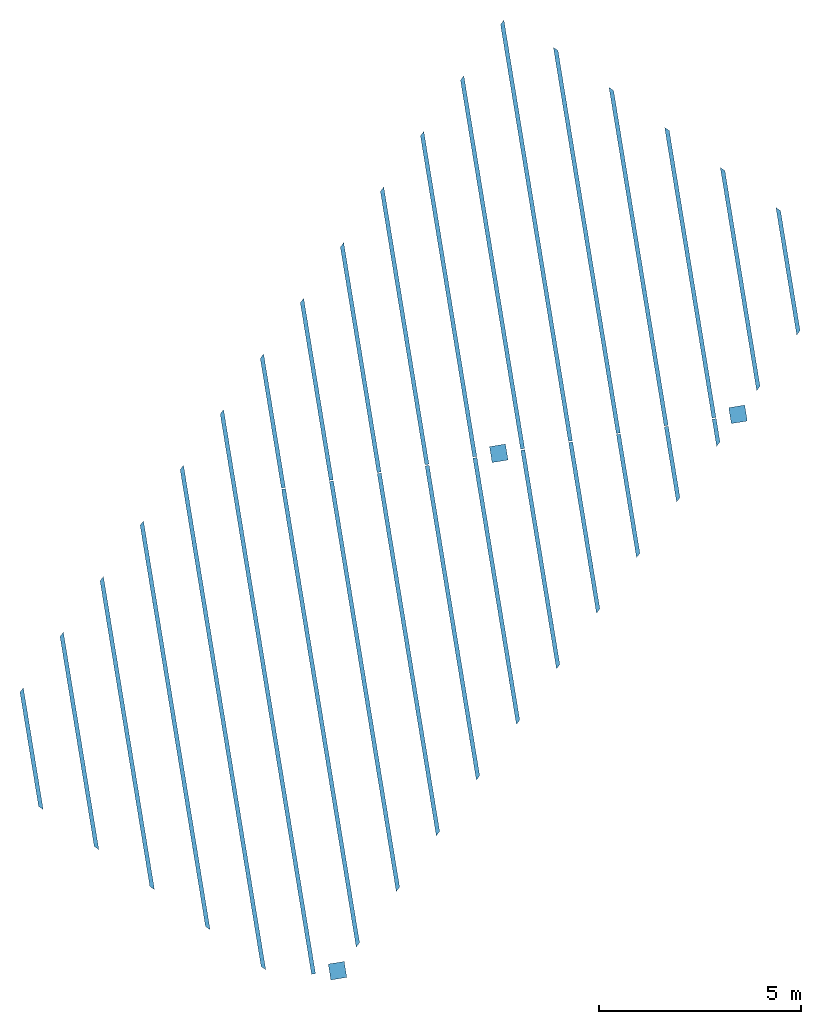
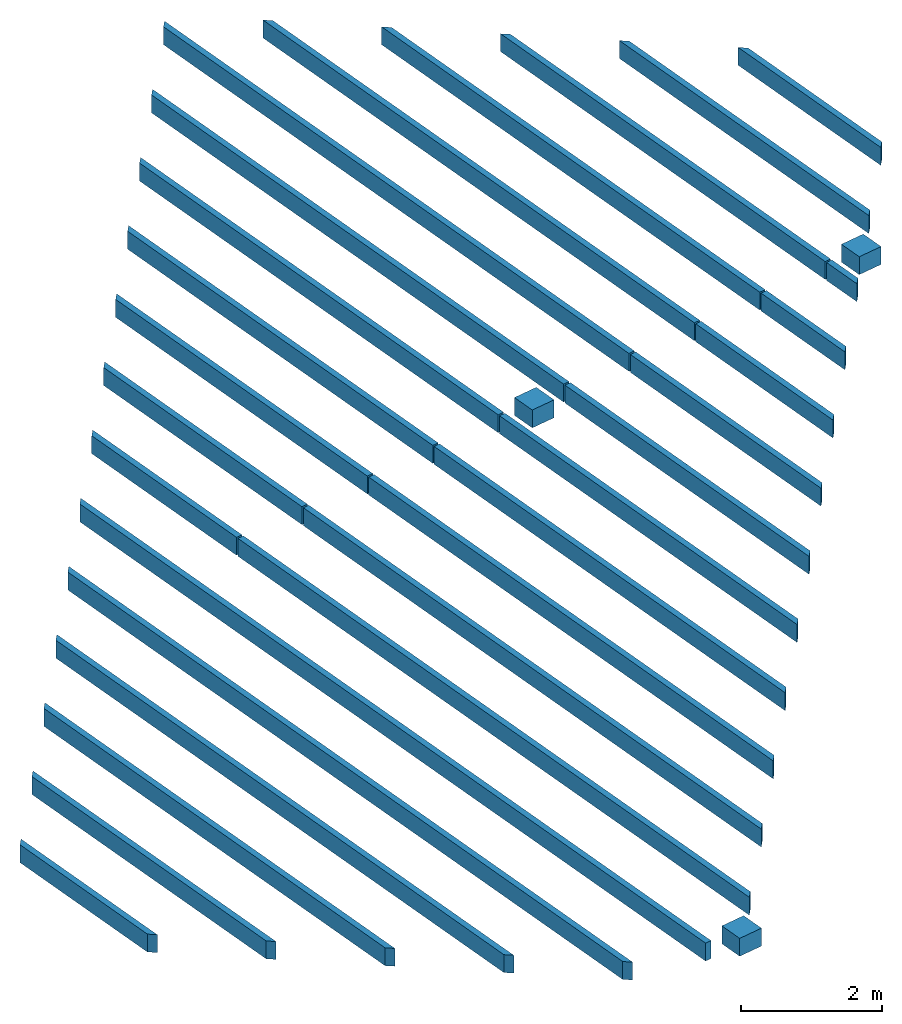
# One storey: 14 beams, 3 columns.
"""IFC2X3 building model written with IfcOpenShell, lengths in millimetres."""

from ifc_helpers import new_model, entity, si_unit, converted_unit, derived_unit, direction, frame, origin, origin_with_axes, place, context, subcontext, project, spatial, faceted_brep, type_object, element, save


model = new_model("IFC2X3")

# Units and contexts
model_context = context("Model", 3, precision=0.01, world=origin(), true_north=direction((6.12323399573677e-17, 1.0)))
plan_context = context("Plan", 3, precision=1e-05, world=origin_with_axes())
body_context = subcontext(model_context, "Body", "Model", "MODEL_VIEW")
ifc_project = project(units=[converted_unit("PLANEANGLEUNIT", "DEGREE", entity("IfcPositiveLengthMeasure", 0.0174532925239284), si_unit("PLANEANGLEUNIT", "RADIAN"), dimensions=[0, 0, 0, 0, 0, 0, 0]), si_unit("AREAUNIT", "SQUARE_METRE"), si_unit("LENGTHUNIT", "METRE", prefix="MILLI"), si_unit("MASSUNIT", "GRAM", prefix="KILO"), si_unit("POWERUNIT", "WATT"), si_unit("PRESSUREUNIT", "PASCAL", prefix="KILO"), si_unit("FORCEUNIT", "NEWTON", prefix="KILO"), si_unit("ELECTRICVOLTAGEUNIT", "VOLT"), si_unit("ELECTRICCURRENTUNIT", "AMPERE"), si_unit("THERMODYNAMICTEMPERATUREUNIT", "DEGREE_CELSIUS"), si_unit("TIMEUNIT", "SECOND"), si_unit("VOLUMEUNIT", "CUBIC_METRE"), derived_unit("LINEARVELOCITYUNIT", [(si_unit("LENGTHUNIT", "METRE"), 1), (si_unit("TIMEUNIT", "SECOND"), -1)]), derived_unit("VOLUMETRICFLOWRATEUNIT", [(si_unit("VOLUMEUNIT", "CUBIC_METRE"), 1), (si_unit("TIMEUNIT", "SECOND"), -1)]), derived_unit("THERMALTRANSMITTANCEUNIT", [(si_unit("POWERUNIT", "WATT"), 1), (si_unit("THERMODYNAMICTEMPERATUREUNIT", "KELVIN"), -1), (si_unit("AREAUNIT", "SQUARE_METRE"), -1)]), derived_unit("SOUNDPRESSUREUNIT", [(si_unit("PRESSUREUNIT", "PASCAL"), 1)])], contexts=[model_context, plan_context])

# Site, building, storey
site_placement = place(None, frame((5.09380697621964e-08, 5.80416781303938e-08, 0.0), z_axis=(0.0, 0.0, 1.0), x_axis=(-0.160806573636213, 0.986985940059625, 0.0)))
site = spatial("IfcSite", under=ifc_project, at=site_placement, Name="Default", CompositionType="ELEMENT")
building_placement = place(site_placement, frame((0.0, 0.0, 0.0), z_axis=(0.0, 0.0, 1.0), x_axis=(1.0, -2.77555756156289e-17, 0.0)))
building = spatial("IfcBuilding", under=site, at=building_placement, CompositionType="ELEMENT")
storey_placement = place(building_placement, frame((0.0, 0.0, 59000.0), z_axis=(0.0, 0.0, 1.0), x_axis=(1.0, -2.77555756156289e-17, 0.0)))
storey = spatial("IfcBuildingStorey", under=building, at=storey_placement, Name="H03-Nivå G-5m", CompositionType="ELEMENT", Elevation=59000.0)

# Columns
column_type = type_object("IfcColumnType", Name="400*400", PredefinedType="NOTDEFINED")
column_1_placement = place(storey_placement, frame((0.0, 0.0, 0.0), z_axis=(0.0, 0.0, 1.0), x_axis=(1.0, -2.77555756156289e-17, 0.0)))
element("IfcColumn", 1, at=column_1_placement, inside=storey, type_object=column_type, Name="PLASSTØPTSØYLE", ObjectType="400*400", context=body_context, shape_type="Brep", body=[
    faceted_brep([(992438.345385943, -342580.329445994, 400.000000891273), (992838.345385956, -342580.327375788, 400.0), (992838.345385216, -342580.327375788, 89.9999990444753), (992438.345385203, -342580.329445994, 90.0000000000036), (992838.34331501, -342180.327375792, 89.9999990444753), (992438.343314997, -342180.329445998, 90.0000000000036), (992838.34331575, -342180.327375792, 400.0), (992438.343315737, -342180.329445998, 400.000000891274), (992438.343315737, -342180.329445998, 400.0), (992438.345385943, -342580.329445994, 400.0)], [[[0, 1, 2, 3]], [[3, 2, 4, 5]], [[6, 7, 5, 4]], [[7, 0, 3, 5]], [[1, 6, 4, 2]], [[8, 6, 1, 9]]], orient=[[False], [False], [False], [False], [False], [False]]),
])
column_2_placement = place(storey_placement, frame((0.0, 0.0, 0.0), z_axis=(0.0, 0.0, 1.0), x_axis=(1.0, -2.77555756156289e-17, 0.0)))
element("IfcColumn", 2, at=column_2_placement, inside=storey, type_object=column_type, Name="PLASSTØPTSØYLE", ObjectType="400*400", context=body_context, shape_type="Brep", body=[
    faceted_brep([(1004438.3719015, -348580.276417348, 400.000000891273), (1004838.37190151, -348580.274347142, 400.0), (1004838.37190077, -348580.274347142, 89.9999990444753), (1004438.37190076, -348580.276417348, 90.0000000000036), (1004838.36983057, -348180.274347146, 89.9999990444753), (1004438.36983055, -348180.276417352, 90.0000000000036), (1004838.36983131, -348180.274347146, 400.0), (1004438.36983129, -348180.276417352, 400.000000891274), (1004438.36983129, -348180.276417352, 400.0), (1004438.3719015, -348580.276417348, 400.0)], [[[0, 1, 2, 3]], [[3, 2, 4, 5]], [[6, 7, 5, 4]], [[7, 0, 3, 5]], [[1, 6, 4, 2]], [[8, 6, 1, 9]]], orient=[[False], [False], [False], [False], [False], [False]]),
])
column_3_placement = place(storey_placement, frame((0.0, 0.0, 0.0), z_axis=(0.0, 0.0, 1.0), x_axis=(1.0, -2.77555756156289e-17, 0.0)))
element("IfcColumn", 3, at=column_3_placement, inside=storey, type_object=column_type, Name="PLASSTØPTSØYLE", ObjectType="400*400", context=body_context, shape_type="Brep", body=[
    faceted_brep([(1004438.39841628, -354580.276417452, 400.000000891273), (1004838.39841629, -354580.274347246, 400.0), (1004838.39841555, -354580.274347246, 89.9999990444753), (1004438.39841554, -354580.276417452, 90.0000000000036), (1004838.39634534, -354180.27434725, 89.9999990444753), (1004438.39634533, -354180.276417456, 90.0000000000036), (1004838.39634608, -354180.27434725, 400.0), (1004438.39634607, -354180.276417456, 400.000000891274), (1004438.39634607, -354180.276417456, 400.0), (1004438.39841628, -354580.276417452, 400.0)], [[[0, 1, 2, 3]], [[3, 2, 4, 5]], [[6, 7, 5, 4]], [[7, 0, 3, 5]], [[1, 6, 4, 2]], [[8, 6, 1, 9]]], orient=[[False], [False], [False], [False], [False], [False]]),
])

# Beams
beam_type = type_object("IfcBeamType", Name="DT450*2400-100-50-1200-0-200-0.3", PredefinedType="NOTDEFINED")
beam_1_placement = place(storey_placement, frame((1004653.37530632, -351980.275321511, 90.0), z_axis=(0.0, 0.0, 1.0), x_axis=(1.0, -2.77555756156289e-17, 0.0)))
element("IfcBeam", 4, at=beam_1_placement, inside=storey, type_object=beam_type, Name="DT", ObjectType="DT450*2400-100-50-1200-0-200-0.3", context=body_context, shape_type="Brep", body=[
    faceted_brep([(0.00952386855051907, 550.0, 310.0), (9589.05338590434, 550.061956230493, 310.0), (9589.05338590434, 550.049364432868, 0.0), (0.00952386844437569, 550.0, 0.0), (9689.04130884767, 650.049879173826, 0.0), (0.00900906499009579, 650.0, 0.0), (9689.05287110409, 650.061441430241, 310.0), (0.00900906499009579, 650.0, 310.0), (0.00334622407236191, 1750.0, 310.0), (10552.2674286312, 1750.05577862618, 310.0), (10552.2674286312, 1750.05432309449, 0.0), (0.00334622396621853, 1750.0, 0.0), (10452.2693989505, 1850.05380830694, 0.0), (0.00283142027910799, 1850.0, 0.0), (10452.2679434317, 1850.05526382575, 310.0), (0.00283142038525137, 1850.0, 310.0), (9689.04130884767, 650.049879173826, 310.0), (9589.0407940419, 550.049364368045, 0.0), (9589.04079404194, 550.049364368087, 310.0), (10452.2693989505, 1850.05380830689, 310.0), (10552.2688841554, 1750.05432310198, 0.0), (10552.2688841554, 1750.05432310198, 310.0)], [[[0, 1, 2, 3]], [[2, 4, 5, 3]], [[4, 6, 7, 5]], [[8, 9, 10, 11]], [[10, 12, 13, 11]], [[12, 14, 15, 13]], [[7, 0, 3, 5]], [[15, 8, 11, 13]], [[16, 4, 17, 18]], [[19, 12, 20, 21]], [[18, 0, 7, 16]], [[21, 8, 15, 19]]], orient=[[False], [False], [False], [False], [False], [False], [False], [False], [False], [False], [False], [False]]),
])
beam_2_placement = place(storey_placement, frame((1004653.36470041, -349580.27532147, 90.0), z_axis=(0.0, 0.0, 1.0), x_axis=(1.0, -2.77555756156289e-17, 0.0)))
element("IfcBeam", 5, at=beam_2_placement, inside=storey, type_object=beam_type, Name="DT", ObjectType="DT450*2400-100-50-1200-0-200-0.3", context=body_context, shape_type="Brep", body=[
    faceted_brep([(0.00952386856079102, 550.0, 310.0), (9352.28421209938, 550.049601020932, 310.0), (9352.28421209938, 550.048145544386, 0.0), (0.00952386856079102, 550.0, 0.0), (9252.28618236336, 650.04763075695, 0.0), (0.00900906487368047, 650.0, 0.0), (9252.28472689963, 650.049086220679, 310.0), (0.00900906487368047, 650.0, 310.0), (0.00334622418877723, 1750.0, 310.0), (8152.29038970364, 1750.04342341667, 310.0), (8152.29038970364, 1750.04196800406, 0.0), (0.00334622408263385, 1750.0, 0.0), (8052.29235990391, 1850.0414532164, 0.0), (0.00283142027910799, 1850.0, 0.0), (8052.29090450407, 1850.04290861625, 310.0), (0.00283142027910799, 1850.0, 310.0), (9252.28618236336, 650.04763075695, 310.0), (9352.28566756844, 550.048145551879, 0.0), (9352.28566756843, 550.048145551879, 310.0), (8052.29235990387, 1850.04145321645, 310.0), (8152.29184510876, 1750.04196801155, 0.0), (8152.29184510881, 1750.0419680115, 310.0)], [[[0, 1, 2, 3]], [[2, 4, 5, 3]], [[4, 6, 7, 5]], [[8, 9, 10, 11]], [[10, 12, 13, 11]], [[12, 14, 15, 13]], [[7, 0, 3, 5]], [[15, 8, 11, 13]], [[16, 4, 17, 18]], [[19, 12, 20, 21]], [[18, 0, 7, 16]], [[21, 8, 15, 19]]], orient=[[False], [False], [False], [False], [False], [False], [False], [False], [False], [False], [False], [False]]),
])
beam_3_placement = place(storey_placement, frame((1004653.3540945, -347180.275321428, 90.0), z_axis=(0.0, 0.0, 1.0), x_axis=(1.0, -2.77555756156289e-17, 0.0)))
element("IfcBeam", 6, at=beam_3_placement, inside=storey, type_object=beam_type, Name="DT", ObjectType="DT450*2400-100-50-1200-0-200-0.3", context=body_context, shape_type="Brep", body=[
    faceted_brep([(0.00952386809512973, 550.0, 310.0), (6952.30717317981, 550.037245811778, 310.0), (6952.30717317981, 550.035790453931, 0.0), (0.00952386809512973, 550.0, 0.0), (6852.30914332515, 650.035275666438, 0.0), (0.00900906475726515, 650.0, 0.0), (6852.30768798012, 650.036731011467, 310.0), (0.00900906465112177, 650.0, 310.0), (0.00334622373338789, 1750.0, 310.0), (5752.31335078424, 1750.03106820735, 310.0), (5752.31335078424, 1750.02961291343, 0.0), (0.00334622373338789, 1750.0, 0.0), (5652.31532086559, 1850.02909812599, 0.0), (0.00283142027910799, 1850.0, 0.0), (5652.31386558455, 1850.03055340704, 310.0), (0.00283142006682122, 1850.0, 310.0), (6852.30914332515, 650.035275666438, 310.0), (6952.30862853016, 550.035790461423, 0.0), (6952.30862853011, 550.035790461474, 310.0), (5652.31532086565, 1850.02909812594, 310.0), (5752.31480607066, 1750.02961292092, 0.0), (5752.31480607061, 1750.02961292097, 310.0)], [[[0, 1, 2, 3]], [[2, 4, 5, 3]], [[4, 6, 7, 5]], [[8, 9, 10, 11]], [[10, 12, 13, 11]], [[12, 14, 15, 13]], [[7, 0, 3, 5]], [[15, 8, 11, 13]], [[16, 4, 17, 18]], [[19, 12, 20, 21]], [[18, 0, 7, 16]], [[21, 8, 15, 19]]], orient=[[False], [False], [False], [False], [False], [False], [False], [False], [False], [False], [False], [False]]),
])
beam_4_placement = place(storey_placement, frame((1004653.34348859, -344780.275321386, 90.0), z_axis=(0.0, 0.0, 1.0), x_axis=(1.0, -2.77555756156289e-17, 0.0)))
element("IfcBeam", 7, at=beam_4_placement, inside=storey, type_object=beam_type, Name="DT", ObjectType="DT450*2400-100-50-1200-0-200-0.3", context=body_context, shape_type="Brep", body=[
    faceted_brep([(0.00952386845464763, 550.0, 310.0), (4552.33013426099, 550.024890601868, 310.0), (4552.33013426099, 550.023435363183, 0.0), (0.00952386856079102, 550.0, 0.0), (4452.332104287, 650.022920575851, 0.0), (0.00900906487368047, 650.0, 0.0), (4452.33064906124, 650.024375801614, 310.0), (0.00900906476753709, 650.0, 310.0), (0.00334622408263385, 1750.0, 310.0), (3352.33631186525, 1750.01871299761, 310.0), (3352.33631186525, 1750.01725782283, 0.0), (0.00334622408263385, 1750.0, 0.0), (3252.33828182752, 1850.01674303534, 0.0), (0.00283142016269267, 1850.0, 0.0), (3252.33682666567, 1850.01819819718, 310.0), (0.00283142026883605, 1850.0, 310.0), (4452.3321042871, 650.022920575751, 310.0), (4552.33158949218, 550.023435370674, 0.0), (4552.33158949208, 550.023435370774, 310.0), (3252.33828182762, 1850.01674303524, 310.0), (3352.33776703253, 1750.01725783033, 0.0), (3352.33776703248, 1750.01725783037, 310.0)], [[[0, 1, 2, 3]], [[2, 4, 5, 3]], [[4, 6, 7, 5]], [[8, 9, 10, 11]], [[10, 12, 13, 11]], [[12, 14, 15, 13]], [[7, 0, 3, 5]], [[15, 8, 11, 13]], [[16, 4, 17, 18]], [[19, 12, 20, 21]], [[18, 0, 7, 16]], [[21, 8, 15, 19]]], orient=[[False], [False], [False], [False], [False], [False], [False], [False], [False], [False], [False], [False]]),
])
beam_5_placement = place(storey_placement, frame((1004653.38591223, -354380.275321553, 90.0), z_axis=(0.0, 0.0, 1.0), x_axis=(1.0, -2.77555756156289e-17, 0.0)))
element("IfcBeam", 8, at=beam_5_placement, inside=storey, type_object=beam_type, Name="DT", ObjectType="DT450*2400-100-50-1200-0-200-0.3", context=body_context, shape_type="Brep", body=[
    faceted_brep([(0.00952386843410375, 550.0, 310.0), (7189.05513515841, 550.074311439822, 310.0), (7189.05513515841, 550.03700923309, 0.0), (0.00952386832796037, 550.0, 0.0), (7289.01834756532, 650.037523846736, 0.0), (0.00900906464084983, 650.0, 0.0), (7289.05462035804, 650.073796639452, 310.0), (0.00900906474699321, 650.0, 310.0), (0.00334622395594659, 1750.0, 310.0), (8389.04895755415, 1750.06813383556, 310.0), (8389.04895755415, 1750.04318683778, 0.0), (0.00334622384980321, 1750.0, 0.0), (8489.02452523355, 1850.04370151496, 0.0), (0.00283142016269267, 1850.0, 0.0), (8489.04844275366, 1850.06761903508, 310.0), (0.00283142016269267, 1850.0, 310.0), (7289.01834756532, 650.037523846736, 310.0), (7189.01783275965, 550.037009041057, 0.0), (7189.01783275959, 550.037009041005, 310.0), (8489.02452523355, 1850.04370151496, 310.0), (8389.02401042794, 1750.04318670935, 0.0), (8389.0240104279, 1750.04318670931, 310.0)], [[[0, 1, 2, 3]], [[2, 4, 5, 3]], [[4, 6, 7, 5]], [[8, 9, 10, 11]], [[10, 12, 13, 11]], [[12, 14, 15, 13]], [[7, 0, 3, 5]], [[15, 8, 11, 13]], [[16, 4, 17, 18]], [[19, 12, 20, 21]], [[18, 0, 7, 16]], [[21, 8, 15, 19]]], orient=[[False], [False], [False], [False], [False], [False], [False], [False], [False], [False], [False], [False]]),
])
beam_6_placement = place(storey_placement, frame((0.0, 0.0, 0.0), z_axis=(0.0, 0.0, 1.0), x_axis=(1.0, -2.77555756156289e-17, 0.0)))
element("IfcBeam", 9, at=beam_6_placement, inside=storey, type_object=beam_type, Name="DT", ObjectType="DT450*2400-100-50-1200-0-200-0.3", context=body_context, shape_type="Brep", body=[
    faceted_brep([(1006439.48393671, -356230.266126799, 89.9999999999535), (1006439.48393671, -356230.275321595, 400.0), (1009442.36673591, -356230.275321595, 400.0), (1009442.36673591, -356230.250667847, 89.9999999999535), (1009542.39190459, -356130.250152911, 89.9999999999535), (1006339.47525676, -356130.266641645, 89.9999999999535), (1009542.36673591, -356130.275321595, 400.0), (1006339.48393671, -356130.275321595, 400.0), (1005239.48393671, -355030.272304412, 89.9999999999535), (1005239.48393671, -355030.275321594, 400.0), (1010642.36673591, -355030.275321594, 400.0), (1010642.36673591, -355030.24449017, 89.9999999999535), (1010742.3980823, -354930.243975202, 89.9999999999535), (1005139.48143434, -354930.272819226, 89.9999999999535), (1010742.36673591, -354930.275321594, 400.0), (1005139.48393671, -354930.275321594, 400.0), (1009542.39190459, -356130.250152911, 400.0), (1009442.39138978, -356230.25066772, 89.9999999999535), (1009442.39138978, -356230.25066772, 399.999999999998), (1010742.3980823, -354930.243975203, 400.0), (1010642.39756749, -355030.244490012, 89.9999999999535), (1010642.39756749, -355030.244490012, 400.000000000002), (1005239.48091954, -355030.272304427, 400.000000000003), (1005239.48091954, -355030.272304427, 89.9999999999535), (1005139.48143434, -354930.272819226, 400.0), (1006439.47474196, -356230.266126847, 400.000000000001), (1006439.47474196, -356230.266126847, 89.9999999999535), (1006339.47525676, -356130.266641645, 400.0)], [[[0, 1, 2, 3]], [[3, 4, 5, 0]], [[4, 6, 7, 5]], [[8, 9, 10, 11]], [[11, 12, 13, 8]], [[12, 14, 15, 13]], [[16, 4, 17, 18]], [[19, 12, 20, 21]], [[22, 23, 13, 24]], [[25, 26, 5, 27]], [[18, 25, 27, 16]], [[21, 22, 24, 19]]], orient=[[False], [False], [False], [False], [False], [False], [False], [False], [False], [False], [False], [False]]),
])
beam_7_placement = place(storey_placement, frame((992653.311670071, -337580.328350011, 90.0), z_axis=(0.0, 0.0, 1.0), x_axis=(1.0, -2.77555756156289e-17, 0.0)))
element("IfcBeam", 10, at=beam_7_placement, inside=storey, type_object=beam_type, Name="DT", ObjectType="DT450*2400-100-50-1200-0-200-0.3", context=body_context, shape_type="Brep", body=[
    faceted_brep([(3892.54548761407, 550.020038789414, 0.0), (3892.54548761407, 550.049601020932, 310.0), (9352.39027098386, 550.049601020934, 310.0), (9352.39027098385, 550.048146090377, 0.0), (3992.51644003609, 650.020553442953, 0.0), (9252.39224070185, 650.047631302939, 0.0), (9252.39078578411, 650.04908622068, 310.0), (3992.54497281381, 650.049086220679, 310.0), (5092.53931000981, 1750.02621639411, 0.0), (5092.53931000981, 1750.04342341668, 310.0), (8152.39644858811, 1750.04342341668, 310.0), (8152.39644858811, 1750.04196855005, 0.0), (5192.52261770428, 1850.02673111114, 0.0), (8052.3984182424, 1850.04145376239, 0.0), (8052.39696338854, 1850.04290861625, 310.0), (5192.53879520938, 1850.04290861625, 310.0), (9252.39224070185, 650.047631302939, 310.0), (9352.39172590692, 550.048146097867, 0.0), (9352.39172590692, 550.048146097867, 310.0), (8052.39841824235, 1850.04145376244, 310.0), (8152.39790344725, 1750.04196855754, 0.0), (8152.3979034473, 1750.04196855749, 310.0), (5092.52210289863, 1750.02621630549, 310.0), (5092.52210289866, 1750.02621630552, 0.0), (5192.52261770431, 1850.02673111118, 310.0), (3892.51592523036, 550.020038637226, 310.0), (3892.51592523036, 550.020038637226, 0.0), (3992.51644003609, 650.020553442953, 310.0)], [[[0, 1, 2, 3]], [[4, 0, 3, 5]], [[5, 6, 7, 4]], [[8, 9, 10, 11]], [[12, 8, 11, 13]], [[13, 14, 15, 12]], [[16, 5, 17, 18]], [[19, 13, 20, 21]], [[22, 23, 12, 24]], [[25, 26, 4, 27]], [[18, 25, 27, 16]], [[21, 22, 24, 19]]], orient=[[False], [False], [False], [False], [False], [False], [False], [False], [False], [False], [False], [False]]),
])
beam_8_placement = place(storey_placement, frame((992653.322275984, -339980.328350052, 90.0), z_axis=(0.0, 0.0, 1.0), x_axis=(1.0, -2.77555756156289e-17, 0.0)))
element("IfcBeam", 11, at=beam_8_placement, inside=storey, type_object=beam_type, Name="DT", ObjectType="DT450*2400-100-50-1200-0-200-0.3", context=body_context, shape_type="Brep", body=[
    faceted_brep([(1492.54723686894, 550.007683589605, 0.0), (1492.54723686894, 550.061956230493, 310.0), (11752.367309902, 550.061956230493, 310.0), (11752.367309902, 550.060501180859, 0.0), (1592.49347875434, 650.008198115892, 0.0), (11652.3692797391, 650.059986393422, 0.0), (11652.3678247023, 650.061441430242, 310.0), (1592.54672206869, 650.061441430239, 310.0), (2692.54105926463, 1750.0138611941, 0.0), (2692.54105926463, 1750.05577862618, 310.0), (10552.3734875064, 1750.05577862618, 310.0), (10552.3734875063, 1750.05432364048, 0.0), (2792.49965642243, 1850.01437578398, 0.0), (10452.3754572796, 1850.05380885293, 0.0), (10452.3740023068, 1850.05526382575, 310.0), (2792.5405444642, 1850.05526382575, 310.0), (11652.3692797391, 650.059986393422, 310.0), (11752.3687649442, 550.06050118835, 0.0), (11752.3687649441, 550.060501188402, 310.0), (10452.3754572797, 1850.05380885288, 310.0), (10552.3749424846, 1750.05432364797, 0.0), (10552.3749424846, 1750.05432364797, 310.0), (2692.49914161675, 1750.0138609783, 310.0), (2692.49914161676, 1750.0138609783, 0.0), (2792.49965642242, 1850.01437578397, 310.0), (1492.49296394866, 550.007683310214, 310.0), (1492.49296394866, 550.007683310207, 0.0), (1592.49347875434, 650.008198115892, 310.0)], [[[0, 1, 2, 3]], [[4, 0, 3, 5]], [[5, 6, 7, 4]], [[8, 9, 10, 11]], [[12, 8, 11, 13]], [[13, 14, 15, 12]], [[16, 5, 17, 18]], [[19, 13, 20, 21]], [[22, 23, 12, 24]], [[25, 26, 4, 27]], [[18, 25, 27, 16]], [[21, 22, 24, 19]]], orient=[[False], [False], [False], [False], [False], [False], [False], [False], [False], [False], [False], [False]]),
])
beam_9_placement = place(storey_placement, frame((992653.332881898, -342380.328350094, 90.0), z_axis=(0.0, 0.0, 1.0), x_axis=(1.0, -2.77555756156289e-17, 0.0)))
element("IfcBeam", 12, at=beam_9_placement, inside=storey, type_object=beam_type, Name="DT", ObjectType="DT450*2400-100-50-1200-0-200-0.3", context=body_context, shape_type="Brep", body=[
    faceted_brep([(0.00952386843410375, 550.0, 310.0), (14152.3443488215, 550.074311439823, 310.0), (14152.3443488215, 550.072856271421, 0.0), (0.00952386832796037, 550.0, 0.0), (14052.3463187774, 650.072341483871, 0.0), (0.00900906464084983, 650.0, 0.0), (14052.3448636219, 650.073796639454, 310.0), (0.00900906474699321, 650.0, 310.0), (292.542808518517, 1750.00150599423, 0.0), (292.54280851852, 1750.06813383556, 310.0), (12952.3505264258, 1750.06813383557, 310.0), (12952.3505264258, 1750.0666787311, 0.0), (392.47669513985, 1850.0020204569, 0.0), (12852.3524963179, 1850.06616394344, 0.0), (12852.3510412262, 1850.06761903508, 310.0), (392.542293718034, 1850.06761903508, 310.0), (14052.3463187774, 650.072341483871, 310.0), (14152.3458039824, 550.072856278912, 0.0), (14152.3458039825, 550.072856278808, 310.0), (12852.3524963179, 1850.06616394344, 310.0), (12952.3519815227, 1750.06667873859, 0.0), (12952.3519815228, 1750.06667873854, 310.0), (292.47618033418, 1750.00150565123, 310.0), (292.476180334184, 1750.00150565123, 0.0), (392.476695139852, 1850.0020204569, 310.0)], [[[0, 1, 2, 3]], [[2, 4, 5, 3]], [[4, 6, 7, 5]], [[8, 9, 10, 11]], [[12, 8, 11, 13]], [[13, 14, 15, 12]], [[7, 0, 3, 5]], [[16, 4, 17, 18]], [[19, 13, 20, 21]], [[22, 23, 12, 24]], [[18, 0, 7, 16]], [[21, 22, 24, 19]]], orient=[[False], [False], [False], [False], [False], [False], [False], [False], [False], [False], [False], [False]]),
])
beam_10_placement = place(storey_placement, frame((0.0, 0.0, 0.0), z_axis=(0.0, 0.0, 1.0), x_axis=(1.0, -2.77555756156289e-17, 0.0)))
element("IfcBeam", 13, at=beam_10_placement, inside=storey, type_object=beam_type, Name="DT", ObjectType="DT450*2400-100-50-1200-0-200-0.3", context=body_context, shape_type="Brep", body=[
    faceted_brep([(994439.53696525, -344230.319154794, 89.9999999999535), (994439.53696525, -344230.328350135, 400.0), (1004623.35174394, -344230.266728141, 400.0), (1004623.35174394, -344230.266728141, 89.9999999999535), (994339.528212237, -344130.31966964, 89.9999999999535), (1004623.35122914, -344130.266728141, 89.9999999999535), (1004623.35122914, -344130.266728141, 400.0), (994339.53696525, -344130.328350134, 400.0), (993239.53696525, -343030.325332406, 89.9999999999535), (993239.53696525, -343030.328350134, 400.0), (1004623.3455663, -343030.266728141, 400.0), (1004623.3455663, -343030.266728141, 89.9999999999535), (993139.534441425, -342930.32584722, 89.9999999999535), (1004623.3450515, -342930.266728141, 89.9999999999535), (1004623.3450515, -342930.266728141, 400.0), (993139.53696525, -342930.328350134, 400.0), (993239.533947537, -343030.325332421, 399.999999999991), (993239.533947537, -343030.325332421, 89.9999999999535), (993139.534462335, -342930.32584722, 89.9999999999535), (993139.534462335, -342930.32584722, 400.0), (994439.527769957, -344230.319154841, 399.999999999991), (994439.527769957, -344230.319154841, 89.9999999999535), (994339.528284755, -344130.31966964, 89.9999999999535), (994339.528284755, -344130.31966964, 400.0)], [[[0, 1, 2, 3]], [[4, 0, 3, 5]], [[6, 7, 4, 5]], [[8, 9, 10, 11]], [[12, 8, 11, 13]], [[14, 15, 12, 13]], [[10, 14, 13, 11]], [[2, 6, 5, 3]], [[16, 17, 18, 19]], [[20, 21, 22, 23]], [[23, 6, 2, 20]], [[19, 14, 10, 16]]], orient=[[False], [False], [False], [False], [False], [False], [False], [False], [False], [False], [False], [False]]),
])
beam_11_placement = place(storey_placement, frame((0.0, 0.0, 0.0), z_axis=(0.0, 0.0, 1.0), x_axis=(1.0, -2.77555756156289e-17, 0.0)))
element("IfcBeam", 14, at=beam_11_placement, inside=storey, type_object=beam_type, Name="DT", ObjectType="DT450*2400-100-50-1200-0-200-0.3", context=body_context, shape_type="Brep", body=[
    faceted_brep([(996839.536965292, -346630.306799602, 89.9999999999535), (996839.536965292, -346630.328350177, 400.0), (1004623.36234986, -346630.266728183, 400.0), (1004623.36234986, -346630.266728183, 89.9999999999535), (996739.515753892, -346530.307314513, 89.9999999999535), (1004623.36183505, -346530.266728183, 89.9999999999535), (1004623.36183505, -346530.266728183, 400.0), (996739.536965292, -346530.328350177, 400.0), (995639.536965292, -345430.312977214, 89.9999999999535), (995639.536965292, -345430.328350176, 400.0), (1004623.35617221, -345430.266728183, 400.0), (1004623.35617221, -345430.266728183, 89.9999999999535), (995539.52198308, -345330.313492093, 89.9999999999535), (1004623.35565741, -345330.266728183, 89.9999999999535), (1004623.35565741, -345330.266728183, 400.0), (995539.536965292, -345330.328350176, 400.0), (995639.521592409, -345430.312977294, 399.999999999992), (995639.521592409, -345430.312977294, 89.9999999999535), (995539.522107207, -345330.313492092, 89.9999999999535), (995539.522107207, -345330.313492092, 400.0), (996839.515414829, -346630.306799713, 399.999999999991), (996839.515414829, -346630.306799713, 89.9999999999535), (996739.515929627, -346530.307314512, 89.9999999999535), (996739.515929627, -346530.307314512, 400.0)], [[[0, 1, 2, 3]], [[4, 0, 3, 5]], [[6, 7, 4, 5]], [[8, 9, 10, 11]], [[12, 8, 11, 13]], [[14, 15, 12, 13]], [[10, 14, 13, 11]], [[2, 6, 5, 3]], [[16, 17, 18, 19]], [[20, 21, 22, 23]], [[23, 6, 2, 20]], [[19, 14, 10, 16]]], orient=[[False], [False], [False], [False], [False], [False], [False], [False], [False], [False], [False], [False]]),
])
beam_12_placement = place(storey_placement, frame((0.0, 0.0, 0.0), z_axis=(0.0, 0.0, 1.0), x_axis=(1.0, -2.77555756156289e-17, 0.0)))
element("IfcBeam", 15, at=beam_12_placement, inside=storey, type_object=beam_type, Name="DT", ObjectType="DT450*2400-100-50-1200-0-200-0.3", context=body_context, shape_type="Brep", body=[
    faceted_brep([(999239.536965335, -349030.294444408, 89.9999999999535), (999239.536965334, -349030.328350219, 400.0), (1004623.37295577, -349030.266728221, 400.0), (1004623.37295577, -349030.266728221, 89.9999999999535), (999139.503295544, -348930.294959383, 89.9999999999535), (1004623.37244097, -348930.266728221, 89.9999999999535), (1004623.37244097, -348930.266728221, 400.0), (999139.536965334, -348930.328350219, 400.0), (998039.536965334, -347830.300622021, 89.9999999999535), (998039.536965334, -347830.328350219, 400.0), (1004623.36677813, -347830.26672822, 400.0), (1004623.36677813, -347830.26672822, 89.9999999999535), (997939.509524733, -347730.301136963, 89.9999999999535), (1004623.36626332, -347730.26672822, 89.9999999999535), (1004623.36626332, -347730.26672822, 400.0), (997939.536965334, -347730.328350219, 400.0), (998039.509237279, -347830.300622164, 400.00000000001), (998039.509237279, -347830.300622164, 89.9999999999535), (997939.509752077, -347730.301136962, 89.9999999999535), (997939.509752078, -347730.301136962, 400.0), (999239.503059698, -349030.294444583, 399.999999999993), (999239.503059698, -349030.294444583, 89.9999999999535), (999139.503574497, -348930.294959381, 89.9999999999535), (999139.503574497, -348930.294959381, 400.0)], [[[0, 1, 2, 3]], [[4, 0, 3, 5]], [[6, 7, 4, 5]], [[8, 9, 10, 11]], [[12, 8, 11, 13]], [[14, 15, 12, 13]], [[10, 14, 13, 11]], [[2, 6, 5, 3]], [[16, 17, 18, 19]], [[20, 21, 22, 23]], [[23, 6, 2, 20]], [[19, 14, 10, 16]]], orient=[[False], [False], [False], [False], [False], [False], [False], [False], [False], [False], [False], [False]]),
])
beam_13_placement = place(storey_placement, frame((0.0, 0.0, 0.0), z_axis=(0.0, 0.0, 1.0), x_axis=(1.0, -2.77555756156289e-17, 0.0)))
element("IfcBeam", 16, at=beam_13_placement, inside=storey, type_object=beam_type, Name="DT", ObjectType="DT450*2400-100-50-1200-0-200-0.3", context=body_context, shape_type="Brep", body=[
    faceted_brep([(1001639.53696538, -351430.28208922, 89.9999999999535), (1001639.53696538, -351430.328350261, 400.0), (1004623.38356168, -351430.266728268, 400.0), (1004623.38356168, -351430.266728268, 89.9999999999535), (1001539.4908372, -351330.282604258, 89.9999999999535), (1004623.38304688, -351330.266728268, 89.9999999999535), (1004623.38304688, -351330.266728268, 400.0), (1001539.53696538, -351330.328350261, 400.0), (1000439.53696538, -350230.288266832, 89.9999999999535), (1000439.53696538, -350230.328350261, 400.0), (1004623.37738404, -350230.266728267, 400.0), (1004623.37738404, -350230.266728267, 89.9999999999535), (1000339.49706639, -350130.288781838, 89.9999999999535), (1004623.37686924, -350130.266728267, 89.9999999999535), (1004623.37686924, -350130.266728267, 400.0), (1000339.53696538, -350130.328350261, 400.0), (1000439.49688215, -350230.288267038, 400.000000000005), (1000439.49688215, -350230.288267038, 89.9999999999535), (1000339.49739695, -350130.288781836, 89.9999999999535), (1000339.49739695, -350130.288781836, 400.0), (1001639.49070457, -351430.282089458, 399.999999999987), (1001639.49070457, -351430.282089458, 89.9999999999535), (1001539.49121937, -351330.282604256, 89.9999999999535), (1001539.49121937, -351330.282604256, 400.0)], [[[0, 1, 2, 3]], [[4, 0, 3, 5]], [[6, 7, 4, 5]], [[8, 9, 10, 11]], [[12, 8, 11, 13]], [[14, 15, 12, 13]], [[10, 14, 13, 11]], [[2, 6, 5, 3]], [[16, 17, 18, 19]], [[20, 21, 22, 23]], [[23, 6, 2, 20]], [[19, 14, 10, 16]]], orient=[[False], [False], [False], [False], [False], [False], [False], [False], [False], [False], [False], [False]]),
])
beam_14_placement = place(storey_placement, frame((0.0, 0.0, 0.0), z_axis=(0.0, 0.0, 1.0), x_axis=(1.0, -2.77555756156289e-17, 0.0)))
element("IfcBeam", 17, at=beam_14_placement, inside=storey, type_object=beam_type, Name="DT", ObjectType="DT450*2400-100-50-1200-0-200-0.3", context=body_context, shape_type="Brep", body=[
    faceted_brep([(1004039.52326632, -353830.271993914, 89.9999999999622), (1004039.52326632, -353830.314651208, 400.0), (1004623.39449611, -353830.268988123, 400.0), (1004623.39449611, -353830.268988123, 89.9999999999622), (1003939.48064894, -353730.272508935, 89.9999999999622), (1004623.39398131, -353730.268988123, 89.9999999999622), (1004623.39398131, -353730.268988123, 400.0), (1003939.52326632, -353730.314651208, 400.0), (1002839.52326632, -352630.278171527, 89.9999999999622), (1002839.52326632, -352630.314651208, 400.0), (1004623.38831846, -352630.268988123, 400.0), (1004623.38831846, -352630.268988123, 89.9999999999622), (1002739.48689617, -352530.278686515, 89.9999999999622), (1004623.38780366, -352530.268988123, 89.9999999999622), (1004623.38780366, -352530.268988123, 400.0), (1002739.52326632, -352530.314651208, 400.0), (1002839.48678683, -352630.278171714, 400.000000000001), (1002839.48678683, -352630.278171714, 89.9999999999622), (1002739.48730163, -352530.278686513, 89.9999999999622), (1002739.48730163, -352530.278686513, 400.000000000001), (1004039.48060925, -353830.271994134, 399.999999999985), (1004039.48060925, -353830.271994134, 89.9999999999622), (1003939.48112405, -353730.272508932, 89.9999999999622), (1003939.48112405, -353730.272508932, 400.000000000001)], [[[0, 1, 2, 3]], [[4, 0, 3, 5]], [[6, 7, 4, 5]], [[8, 9, 10, 11]], [[12, 8, 11, 13]], [[14, 15, 12, 13]], [[10, 14, 13, 11]], [[2, 6, 5, 3]], [[16, 17, 18, 19]], [[20, 21, 22, 23]], [[23, 6, 2, 20]], [[19, 14, 10, 16]]], orient=[[False], [False], [False], [False], [False], [False], [False], [False], [False], [False], [False], [False]]),
])

save(model, "model.ifc")
